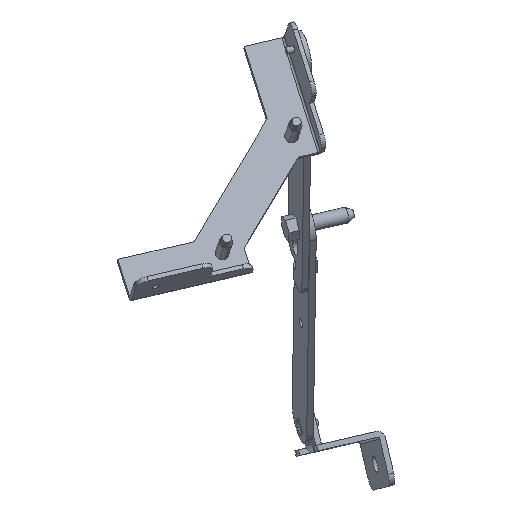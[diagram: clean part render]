
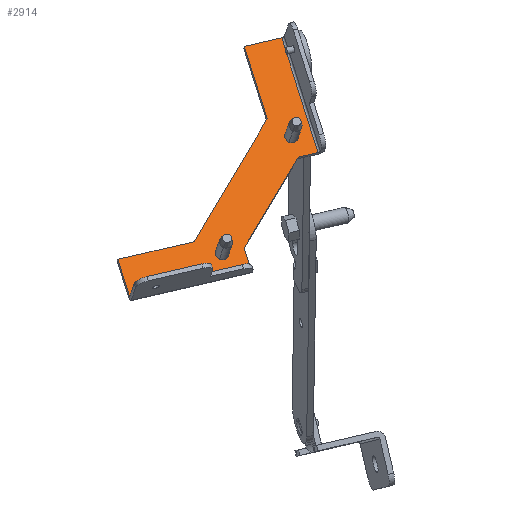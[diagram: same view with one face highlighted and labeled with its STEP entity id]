
A CAD part, left-side view. The second image highlights one B-rep face of the part: STEP entity #2914.
In plain terms, the highlighted planar face has unit normal (-0.919, -0.127, 0.374) as drawn and (0, 1, 0) by its records, which use the part's own axes.
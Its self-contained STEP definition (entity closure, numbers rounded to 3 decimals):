
#9 = FACE_BOUND ( 'NONE', #110, .T. ) ;
#79 = EDGE_LOOP ( 'NONE', ( #1467, #884 ) ) ;
#98 = LINE ( 'NONE', #5273, #3703 ) ;
#110 = EDGE_LOOP ( 'NONE', ( #5207, #2452 ) ) ;
#115 = VECTOR ( 'NONE', #872, 1000. ) ;
#220 = EDGE_CURVE ( 'NONE', #1962, #4414, #5053, .T. ) ;
#266 = EDGE_CURVE ( 'NONE', #2692, #2294, #644, .T. ) ;
#398 = AXIS2_PLACEMENT_3D ( 'NONE', #2319, #5897, #2830 ) ;
#403 = VERTEX_POINT ( 'NONE', #3782 ) ;
#405 = DIRECTION ( 'NONE',  ( 0., 0., 1. ) ) ;
#500 = AXIS2_PLACEMENT_3D ( 'NONE', #4404, #1342, #4921 ) ;
#540 = CARTESIAN_POINT ( 'NONE',  ( 20., 2., -102. ) ) ;
#582 = LINE ( 'NONE', #6327, #5880 ) ;
#634 = CARTESIAN_POINT ( 'NONE',  ( 102., 2., -20. ) ) ;
#644 = LINE ( 'NONE', #4657, #4409 ) ;
#690 = ORIENTED_EDGE ( 'NONE', *, *, #266, .T. ) ;
#734 = LINE ( 'NONE', #5059, #6025 ) ;
#835 = ORIENTED_EDGE ( 'NONE', *, *, #1928, .F. ) ;
#872 = DIRECTION ( 'NONE',  ( -1., 0., 0. ) ) ;
#884 = ORIENTED_EDGE ( 'NONE', *, *, #4769, .T. ) ;
#959 = CARTESIAN_POINT ( 'NONE',  ( 20., 2., -67.284 ) ) ;
#1074 = DIRECTION ( 'NONE',  ( 1., 0., 0. ) ) ;
#1083 = EDGE_CURVE ( 'NONE', #1962, #5443, #3124, .T. ) ;
#1143 = AXIS2_PLACEMENT_3D ( 'NONE', #4970, #1906, #5489 ) ;
#1149 = DIRECTION ( 'NONE',  ( 1., 0., 0. ) ) ;
#1155 = VERTEX_POINT ( 'NONE', #2497 ) ;
#1333 = ORIENTED_EDGE ( 'NONE', *, *, #3864, .F. ) ;
#1335 = EDGE_CURVE ( 'NONE', #3152, #4049, #2275, .T. ) ;
#1342 = DIRECTION ( 'NONE',  ( 0., -1., 0. ) ) ;
#1467 = ORIENTED_EDGE ( 'NONE', *, *, #6314, .T. ) ;
#1558 = CARTESIAN_POINT ( 'NONE',  ( 12., 2., -54. ) ) ;
#1721 = CARTESIAN_POINT ( 'NONE',  ( 67.284, 2., -20. ) ) ;
#1774 = ORIENTED_EDGE ( 'NONE', *, *, #4892, .F. ) ;
#1802 = VECTOR ( 'NONE', #1149, 1000. ) ;
#1824 = CARTESIAN_POINT ( 'NONE',  ( 47., 2., -12. ) ) ;
#1906 = DIRECTION ( 'NONE',  ( 0., -1., 0. ) ) ;
#1928 = EDGE_CURVE ( 'NONE', #4414, #4887, #582, .T. ) ;
#1962 = VERTEX_POINT ( 'NONE', #4832 ) ;
#2084 = VERTEX_POINT ( 'NONE', #4732 ) ;
#2120 = VECTOR ( 'NONE', #4896, 1000. ) ;
#2128 = CIRCLE ( 'NONE', #3155, 3. ) ;
#2157 = EDGE_CURVE ( 'NONE', #1155, #2294, #98, .T. ) ;
#2179 = VECTOR ( 'NONE', #3600, 1000. ) ;
#2205 = DIRECTION ( 'NONE',  ( 0., 0., 1. ) ) ;
#2275 = CIRCLE ( 'NONE', #398, 3. ) ;
#2294 = VERTEX_POINT ( 'NONE', #3320 ) ;
#2319 = CARTESIAN_POINT ( 'NONE',  ( 12., 2., -57. ) ) ;
#2452 = ORIENTED_EDGE ( 'NONE', *, *, #1335, .T. ) ;
#2497 = CARTESIAN_POINT ( 'NONE',  ( 102., 2., -20. ) ) ;
#2512 = DIRECTION ( 'NONE',  ( -0.707, 0., -0.707 ) ) ;
#2548 = CARTESIAN_POINT ( 'NONE',  ( 57., 2., -15. ) ) ;
#2570 = DIRECTION ( 'NONE',  ( 0., 1., 0. ) ) ;
#2579 = FACE_OUTER_BOUND ( 'NONE', #5096, .T. ) ;
#2692 = VERTEX_POINT ( 'NONE', #4630 ) ;
#2821 = ORIENTED_EDGE ( 'NONE', *, *, #3303, .F. ) ;
#2830 = DIRECTION ( 'NONE',  ( 0., 0., 1. ) ) ;
#2869 = AXIS2_PLACEMENT_3D ( 'NONE', #5632, #2570, #6151 ) ;
#2896 = CARTESIAN_POINT ( 'NONE',  ( 12., 2., -57. ) ) ;
#2908 = CARTESIAN_POINT ( 'NONE',  ( 47., 2., -12. ) ) ;
#2914 = ADVANCED_FACE ( 'NONE', ( #5299, #9, #2579 ), #3055, .T. ) ;
#2940 = CIRCLE ( 'NONE', #500, 3. ) ;
#3055 = PLANE ( 'NONE',  #2869 ) ;
#3124 = LINE ( 'NONE', #3474, #4330 ) ;
#3152 = VERTEX_POINT ( 'NONE', #4293 ) ;
#3155 = AXIS2_PLACEMENT_3D ( 'NONE', #2896, #6474, #3407 ) ;
#3177 = LINE ( 'NONE', #634, #1802 ) ;
#3303 = EDGE_CURVE ( 'NONE', #4887, #5828, #3643, .T. ) ;
#3320 = CARTESIAN_POINT ( 'NONE',  ( 102., 2., -3. ) ) ;
#3355 = EDGE_CURVE ( 'NONE', #4049, #3152, #2128, .T. ) ;
#3366 = DIRECTION ( 'NONE',  ( 0.707, 0., 0.707 ) ) ;
#3407 = DIRECTION ( 'NONE',  ( 0., 0., 1. ) ) ;
#3425 = EDGE_CURVE ( 'NONE', #2084, #5443, #5561, .T. ) ;
#3474 = CARTESIAN_POINT ( 'NONE',  ( 3., 2., 0. ) ) ;
#3600 = DIRECTION ( 'NONE',  ( 1., 0., 0. ) ) ;
#3643 = LINE ( 'NONE', #5923, #4844 ) ;
#3662 = ORIENTED_EDGE ( 'NONE', *, *, #220, .F. ) ;
#3703 = VECTOR ( 'NONE', #2205, 1000. ) ;
#3782 = CARTESIAN_POINT ( 'NONE',  ( 57., 2., -9. ) ) ;
#3864 = EDGE_CURVE ( 'NONE', #2692, #6365, #4678, .T. ) ;
#3946 = CIRCLE ( 'NONE', #1143, 3. ) ;
#4049 = VERTEX_POINT ( 'NONE', #1558 ) ;
#4293 = CARTESIAN_POINT ( 'NONE',  ( 12., 2., -60. ) ) ;
#4304 = DIRECTION ( 'NONE',  ( 0., 0., 1. ) ) ;
#4330 = VECTOR ( 'NONE', #405, 1000. ) ;
#4404 = CARTESIAN_POINT ( 'NONE',  ( 57., 2., -12. ) ) ;
#4409 = VECTOR ( 'NONE', #1074, 1000. ) ;
#4414 = VERTEX_POINT ( 'NONE', #6160 ) ;
#4508 = CARTESIAN_POINT ( 'NONE',  ( 3., 2., -47. ) ) ;
#4630 = CARTESIAN_POINT ( 'NONE',  ( 47., 2., -3. ) ) ;
#4657 = CARTESIAN_POINT ( 'NONE',  ( 0., 2., -3. ) ) ;
#4678 = LINE ( 'NONE', #1824, #2120 ) ;
#4732 = CARTESIAN_POINT ( 'NONE',  ( 12., 2., -47. ) ) ;
#4769 = EDGE_CURVE ( 'NONE', #6527, #403, #3946, .T. ) ;
#4832 = CARTESIAN_POINT ( 'NONE',  ( 3., 2., -102. ) ) ;
#4844 = VECTOR ( 'NONE', #3366, 1000. ) ;
#4887 = VERTEX_POINT ( 'NONE', #959 ) ;
#4892 = EDGE_CURVE ( 'NONE', #6365, #2084, #734, .T. ) ;
#4896 = DIRECTION ( 'NONE',  ( 0., 0., -1. ) ) ;
#4921 = DIRECTION ( 'NONE',  ( 0., 0., 1. ) ) ;
#4970 = CARTESIAN_POINT ( 'NONE',  ( 57., 2., -12. ) ) ;
#5053 = LINE ( 'NONE', #540, #2179 ) ;
#5059 = CARTESIAN_POINT ( 'NONE',  ( 12., 2., -47. ) ) ;
#5096 = EDGE_LOOP ( 'NONE', ( #1774, #1333, #690, #6510, #5977, #2821, #835, #3662, #5147, #6593 ) ) ;
#5147 = ORIENTED_EDGE ( 'NONE', *, *, #1083, .T. ) ;
#5207 = ORIENTED_EDGE ( 'NONE', *, *, #3355, .T. ) ;
#5273 = CARTESIAN_POINT ( 'NONE',  ( 102., 2., -3. ) ) ;
#5299 = FACE_BOUND ( 'NONE', #79, .T. ) ;
#5443 = VERTEX_POINT ( 'NONE', #4508 ) ;
#5489 = DIRECTION ( 'NONE',  ( 0., 0., 1. ) ) ;
#5561 = LINE ( 'NONE', #6547, #115 ) ;
#5632 = CARTESIAN_POINT ( 'NONE',  ( 0., 2., 0. ) ) ;
#5713 = EDGE_CURVE ( 'NONE', #5828, #1155, #3177, .T. ) ;
#5828 = VERTEX_POINT ( 'NONE', #1721 ) ;
#5880 = VECTOR ( 'NONE', #4304, 1000. ) ;
#5897 = DIRECTION ( 'NONE',  ( 0., -1., 0. ) ) ;
#5923 = CARTESIAN_POINT ( 'NONE',  ( 67.284, 2., -20. ) ) ;
#5977 = ORIENTED_EDGE ( 'NONE', *, *, #5713, .F. ) ;
#6025 = VECTOR ( 'NONE', #2512, 1000. ) ;
#6151 = DIRECTION ( 'NONE',  ( 0., 0., 1. ) ) ;
#6160 = CARTESIAN_POINT ( 'NONE',  ( 20., 2., -102. ) ) ;
#6314 = EDGE_CURVE ( 'NONE', #403, #6527, #2940, .T. ) ;
#6327 = CARTESIAN_POINT ( 'NONE',  ( 20., 2., -67.284 ) ) ;
#6365 = VERTEX_POINT ( 'NONE', #2908 ) ;
#6474 = DIRECTION ( 'NONE',  ( 0., -1., 0. ) ) ;
#6510 = ORIENTED_EDGE ( 'NONE', *, *, #2157, .F. ) ;
#6527 = VERTEX_POINT ( 'NONE', #2548 ) ;
#6547 = CARTESIAN_POINT ( 'NONE',  ( 3., 2., -47. ) ) ;
#6593 = ORIENTED_EDGE ( 'NONE', *, *, #3425, .F. ) ;
